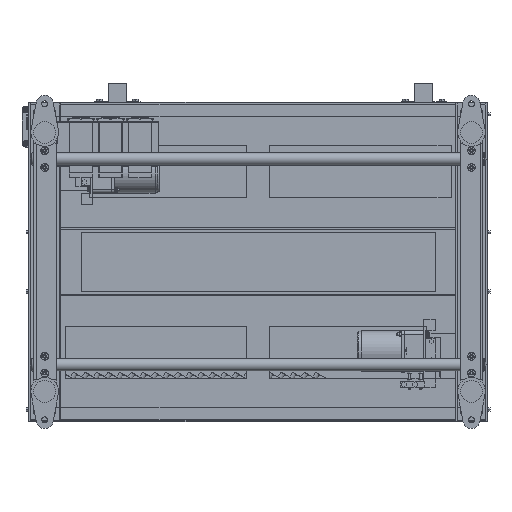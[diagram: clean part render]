
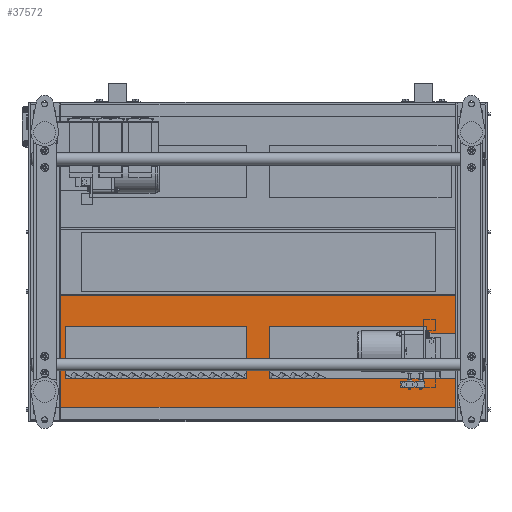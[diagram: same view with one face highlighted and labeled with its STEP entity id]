
A CAD part, front view. The second image highlights one B-rep face of the part: STEP entity #37572.
In plain terms, the highlighted planar face has unit normal (0, -1, 0).
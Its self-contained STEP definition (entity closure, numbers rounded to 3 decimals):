
#343 = EDGE_LOOP ( 'NONE', ( #22489, #22400, #44899, #27330, #45742, #36743 ) ) ;
#455 = FACE_BOUND ( 'NONE', #343, .T. ) ;
#1578 = CARTESIAN_POINT ( 'NONE',  ( 530., -93., -257. ) ) ;
#2004 = CARTESIAN_POINT ( 'NONE',  ( 480., -93., -257. ) ) ;
#2079 = DIRECTION ( 'NONE',  ( 0., 0., -1. ) ) ;
#2728 = VECTOR ( 'NONE', #2079, 1000. ) ;
#2938 = VECTOR ( 'NONE', #26223, 1000. ) ;
#3018 = VECTOR ( 'NONE', #37192, 1000. ) ;
#3146 = ORIENTED_EDGE ( 'NONE', *, *, #55900, .T. ) ;
#3494 = VERTEX_POINT ( 'NONE', #30562 ) ;
#4196 = CARTESIAN_POINT ( 'NONE',  ( 500000., -93., -75. ) ) ;
#5036 = DIRECTION ( 'NONE',  ( -1., 0., 0. ) ) ;
#6383 = CARTESIAN_POINT ( 'NONE',  ( 480., -93., -142. ) ) ;
#7116 = DIRECTION ( 'NONE',  ( -1., 0., 0. ) ) ;
#8424 = VERTEX_POINT ( 'NONE', #39006 ) ;
#9497 = CARTESIAN_POINT ( 'NONE',  ( 530., -93., -142. ) ) ;
#9719 = DIRECTION ( 'NONE',  ( -1., 0., 0. ) ) ;
#12284 = CARTESIAN_POINT ( 'NONE',  ( 970., -93., -157. ) ) ;
#13012 = VECTOR ( 'NONE', #50127, 1000. ) ;
#13048 = LINE ( 'NONE', #35512, #33588 ) ;
#13528 = CARTESIAN_POINT ( 'NONE',  ( 877., -93., -157. ) ) ;
#13586 = EDGE_CURVE ( 'NONE', #21155, #49949, #15249, .T. ) ;
#13651 = VECTOR ( 'NONE', #55361, 1000. ) ;
#13695 = VERTEX_POINT ( 'NONE', #41585 ) ;
#13715 = VECTOR ( 'NONE', #43307, 1000. ) ;
#13723 = EDGE_CURVE ( 'NONE', #19809, #61575, #33887, .T. ) ;
#13803 = LINE ( 'NONE', #13528, #22901 ) ;
#14830 = EDGE_LOOP ( 'NONE', ( #21780, #22291, #21787, #60427 ) ) ;
#15249 = LINE ( 'NONE', #16129, #13012 ) ;
#15808 = VECTOR ( 'NONE', #7116, 1000. ) ;
#16129 = CARTESIAN_POINT ( 'NONE',  ( 530., -93., -142. ) ) ;
#17319 = VECTOR ( 'NONE', #41758, 1000. ) ;
#18374 = EDGE_LOOP ( 'NONE', ( #43776, #20044, #30195, #3146 ) ) ;
#18726 = EDGE_CURVE ( 'NONE', #23906, #35335, #13803, .T. ) ;
#19281 = EDGE_CURVE ( 'NONE', #13695, #34208, #39421, .T. ) ;
#19809 = VERTEX_POINT ( 'NONE', #6383 ) ;
#20044 = ORIENTED_EDGE ( 'NONE', *, *, #47742, .F. ) ;
#21142 = CARTESIAN_POINT ( 'NONE',  ( 1007., -93., -500000. ) ) ;
#21155 = VERTEX_POINT ( 'NONE', #59679 ) ;
#21780 = ORIENTED_EDGE ( 'NONE', *, *, #13723, .T. ) ;
#21787 = ORIENTED_EDGE ( 'NONE', *, *, #24616, .T. ) ;
#22291 = ORIENTED_EDGE ( 'NONE', *, *, #51913, .T. ) ;
#22400 = ORIENTED_EDGE ( 'NONE', *, *, #59909, .T. ) ;
#22489 = ORIENTED_EDGE ( 'NONE', *, *, #18726, .T. ) ;
#22900 = CARTESIAN_POINT ( 'NONE',  ( 970., -93., -157. ) ) ;
#22901 = VECTOR ( 'NONE', #42616, 1000. ) ;
#23906 = VERTEX_POINT ( 'NONE', #40512 ) ;
#24576 = PLANE ( 'NONE',  #41539 ) ;
#24616 = EDGE_CURVE ( 'NONE', #8424, #56294, #49378, .T. ) ;
#25520 = CARTESIAN_POINT ( 'NONE',  ( 80., -93., -142. ) ) ;
#26223 = DIRECTION ( 'NONE',  ( -1., 0., 0. ) ) ;
#27330 = ORIENTED_EDGE ( 'NONE', *, *, #60770, .T. ) ;
#29248 = CARTESIAN_POINT ( 'NONE',  ( 970., -93., -157. ) ) ;
#29488 = CARTESIAN_POINT ( 'NONE',  ( 480., -93., -257. ) ) ;
#29763 = EDGE_CURVE ( 'NONE', #56294, #19809, #46269, .T. ) ;
#30195 = ORIENTED_EDGE ( 'NONE', *, *, #19281, .F. ) ;
#30356 = LINE ( 'NONE', #4196, #47885 ) ;
#30562 = CARTESIAN_POINT ( 'NONE',  ( 970., -93., -257. ) ) ;
#33016 = VERTEX_POINT ( 'NONE', #49757 ) ;
#33588 = VECTOR ( 'NONE', #40415, 1000. ) ;
#33887 = LINE ( 'NONE', #50762, #2728 ) ;
#34208 = VERTEX_POINT ( 'NONE', #36020 ) ;
#34861 = VECTOR ( 'NONE', #39961, 1000. ) ;
#35335 = VERTEX_POINT ( 'NONE', #44501 ) ;
#35512 = CARTESIAN_POINT ( 'NONE',  ( 530., -93., -142. ) ) ;
#36020 = CARTESIAN_POINT ( 'NONE',  ( 3., -93., -347. ) ) ;
#36021 = EDGE_CURVE ( 'NONE', #49949, #23906, #13048, .T. ) ;
#36659 = EDGE_CURVE ( 'NONE', #54062, #3494, #37084, .T. ) ;
#36743 = ORIENTED_EDGE ( 'NONE', *, *, #36021, .T. ) ;
#37084 = LINE ( 'NONE', #12284, #17319 ) ;
#37192 = DIRECTION ( 'NONE',  ( 0., 0., 1. ) ) ;
#37572 = ADVANCED_FACE ( 'NONE', ( #52198, #455, #43803 ), #24576, .F. ) ;
#37941 = LINE ( 'NONE', #2004, #13651 ) ;
#38203 = CARTESIAN_POINT ( 'NONE',  ( 3., -93., -500000. ) ) ;
#38808 = LINE ( 'NONE', #38203, #13715 ) ;
#39006 = CARTESIAN_POINT ( 'NONE',  ( 80., -93., -257. ) ) ;
#39421 = LINE ( 'NONE', #55969, #2938 ) ;
#39638 = VERTEX_POINT ( 'NONE', #47104 ) ;
#39961 = DIRECTION ( 'NONE',  ( 1., 0., 0. ) ) ;
#40164 = LINE ( 'NONE', #1578, #15808 ) ;
#40415 = DIRECTION ( 'NONE',  ( 1., 0., 0. ) ) ;
#40512 = CARTESIAN_POINT ( 'NONE',  ( 877., -93., -142. ) ) ;
#41539 = AXIS2_PLACEMENT_3D ( 'NONE', #58667, #44582, #5036 ) ;
#41540 = DIRECTION ( 'NONE',  ( 0., 0., 1. ) ) ;
#41585 = CARTESIAN_POINT ( 'NONE',  ( 1007., -93., -347. ) ) ;
#41758 = DIRECTION ( 'NONE',  ( 0., 0., -1. ) ) ;
#42616 = DIRECTION ( 'NONE',  ( 0., 0., -1. ) ) ;
#43307 = DIRECTION ( 'NONE',  ( 0., 0., 1. ) ) ;
#43776 = ORIENTED_EDGE ( 'NONE', *, *, #60087, .T. ) ;
#43803 = FACE_OUTER_BOUND ( 'NONE', #18374, .T. ) ;
#44501 = CARTESIAN_POINT ( 'NONE',  ( 877., -93., -157. ) ) ;
#44582 = DIRECTION ( 'NONE',  ( 0., 1., 0. ) ) ;
#44899 = ORIENTED_EDGE ( 'NONE', *, *, #36659, .T. ) ;
#45643 = VECTOR ( 'NONE', #57197, 1000. ) ;
#45742 = ORIENTED_EDGE ( 'NONE', *, *, #13586, .T. ) ;
#46269 = LINE ( 'NONE', #54827, #34861 ) ;
#47104 = CARTESIAN_POINT ( 'NONE',  ( 3., -93., -75. ) ) ;
#47742 = EDGE_CURVE ( 'NONE', #34208, #39638, #38808, .T. ) ;
#47844 = LINE ( 'NONE', #21142, #61480 ) ;
#47885 = VECTOR ( 'NONE', #9719, 1000. ) ;
#49378 = LINE ( 'NONE', #55935, #3018 ) ;
#49757 = CARTESIAN_POINT ( 'NONE',  ( 1007., -93., -75. ) ) ;
#49949 = VERTEX_POINT ( 'NONE', #9497 ) ;
#50127 = DIRECTION ( 'NONE',  ( 0., 0., 1. ) ) ;
#50762 = CARTESIAN_POINT ( 'NONE',  ( 480., -93., -142. ) ) ;
#51913 = EDGE_CURVE ( 'NONE', #61575, #8424, #37941, .T. ) ;
#52198 = FACE_BOUND ( 'NONE', #14830, .T. ) ;
#54062 = VERTEX_POINT ( 'NONE', #29248 ) ;
#54827 = CARTESIAN_POINT ( 'NONE',  ( 480., -93., -142. ) ) ;
#55361 = DIRECTION ( 'NONE',  ( -1., 0., 0. ) ) ;
#55900 = EDGE_CURVE ( 'NONE', #13695, #33016, #47844, .T. ) ;
#55935 = CARTESIAN_POINT ( 'NONE',  ( 80., -93., -142. ) ) ;
#55969 = CARTESIAN_POINT ( 'NONE',  ( 1010., -93., -347. ) ) ;
#56294 = VERTEX_POINT ( 'NONE', #25520 ) ;
#57197 = DIRECTION ( 'NONE',  ( 1., 0., 0. ) ) ;
#58608 = LINE ( 'NONE', #22900, #45643 ) ;
#58667 = CARTESIAN_POINT ( 'NONE',  ( 1010., -93., -500000. ) ) ;
#59679 = CARTESIAN_POINT ( 'NONE',  ( 530., -93., -257. ) ) ;
#59909 = EDGE_CURVE ( 'NONE', #35335, #54062, #58608, .T. ) ;
#60087 = EDGE_CURVE ( 'NONE', #33016, #39638, #30356, .T. ) ;
#60427 = ORIENTED_EDGE ( 'NONE', *, *, #29763, .T. ) ;
#60770 = EDGE_CURVE ( 'NONE', #3494, #21155, #40164, .T. ) ;
#61480 = VECTOR ( 'NONE', #41540, 1000. ) ;
#61575 = VERTEX_POINT ( 'NONE', #29488 ) ;
